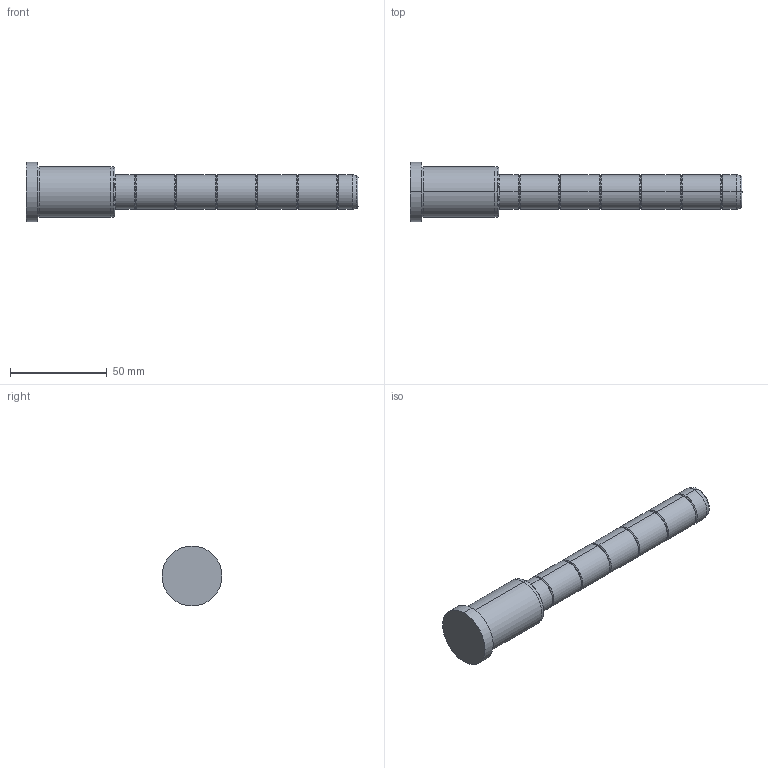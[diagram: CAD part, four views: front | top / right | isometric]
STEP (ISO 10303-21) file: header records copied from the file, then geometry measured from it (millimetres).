
FILE_DESCRIPTION( ( 'STEP AP203' ), '1' );
FILE_NAME( 'C:/Projects/D02 - 18x46x126.step', '2003-01-04T13:32:28', ( ' ' ), ( ' ' ), 'XStep 1.0', ' ', ' ' );
FILE_SCHEMA( ( 'CONFIG_CONTROL_DESIGN' ) );
Length unit declared in the file: metre
Products named in the file (1): 1
Bounding box: 172 x 31 x 31 mm (x, y, z)
Volume: 57650.1 mm3; surface area: 12571.6 mm2
Topology: 1 solids, 1 shells, 60 faces, 118 edges, 64 vertices
Faces by surface type: bspline 34, revolution 26
Entity records: 1919 total; most frequent: CARTESIAN_POINT 817, ORIENTED_EDGE 236, DIRECTION 182, EDGE_CURVE 118, AXIS2_PLACEMENT_3D 65, EDGE_LOOP 64, VERTEX_POINT 64, CIRCLE 64
